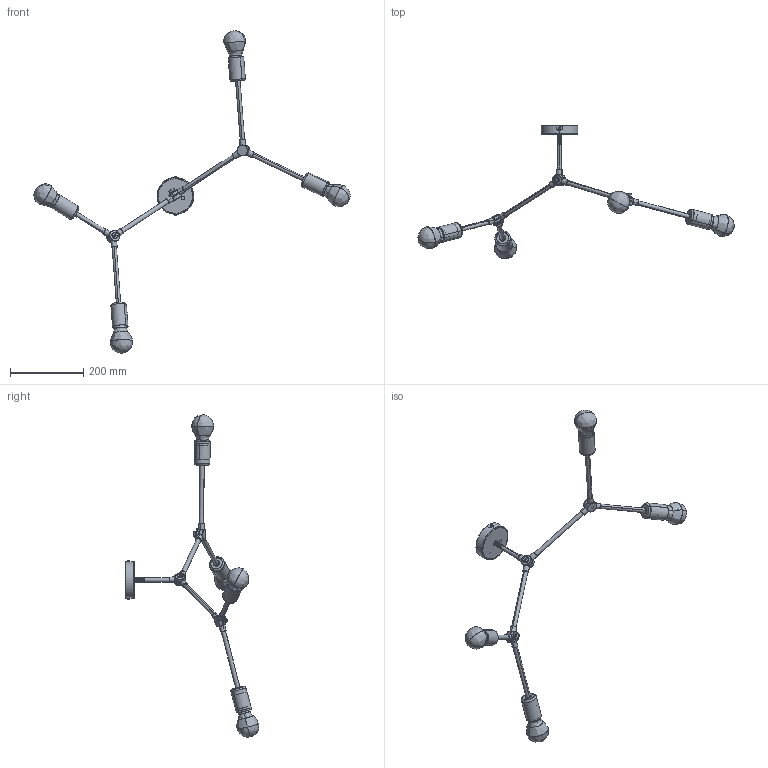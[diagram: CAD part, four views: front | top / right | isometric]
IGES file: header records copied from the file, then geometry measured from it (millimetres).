
Start section: SolidWorks IGES file using analytic representation for surfaces
Global section: file name: F:\GABRYSIA\MODELE 3D\TWIG\Z³o¿enie TWIG IV 9140.IGS; native system: SolidWorks 2017; preprocessor: SolidWorks 2017; author: Togambi; date: 190627.183225; units: millimetre
Bounding box: 861.96 x 363.66 x 878.95 mm (x, y, z)
Surface area: 396877 mm2 (no closed solid volume)
Topology: 0 solids, 0 shells, 2130 faces, 27033 edges, 26935 vertices
Faces by surface type: bspline 1318, revolution 812
